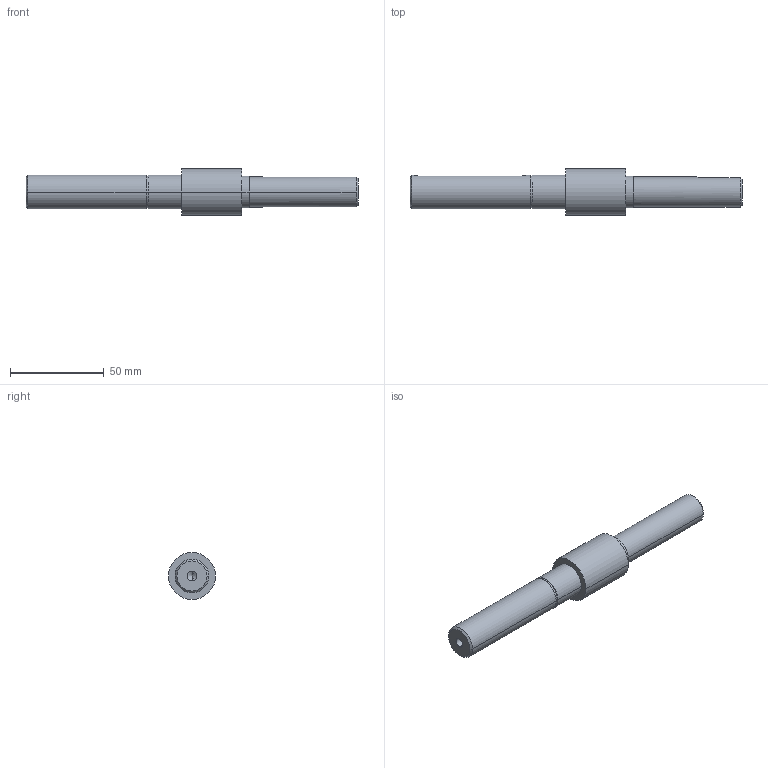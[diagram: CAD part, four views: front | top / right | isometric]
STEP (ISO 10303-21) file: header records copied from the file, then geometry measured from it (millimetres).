
FILE_DESCRIPTION (( 'STEP AP203' ), '1' );
FILE_NAME ('084.811.002.STEP', '2013-01-29T12:58:04', ( 'Alusic' ), ( 'Alusic' ), 'SwSTEP 2.0', 'SolidWorks 2011', '' );
FILE_SCHEMA (( 'CONFIG_CONTROL_DESIGN' ));
Length unit declared in the file: millimetre
Products named in the file (1): 084.811.002
Bounding box: 177 x 25 x 25 mm (x, y, z)
Volume: 47498.3 mm3; surface area: 12038.4 mm2
Topology: 1 solids, 1 shells, 36 faces, 82 edges, 52 vertices
Faces by surface type: cylinder 17, plane 13, cone 6
Entity records: 1170 total; most frequent: CARTESIAN_POINT 271, DIRECTION 181, ORIENTED_EDGE 160, EDGE_CURVE 80, AXIS2_PLACEMENT_3D 72, VERTEX_POINT 52, EDGE_LOOP 42, VECTOR 37
